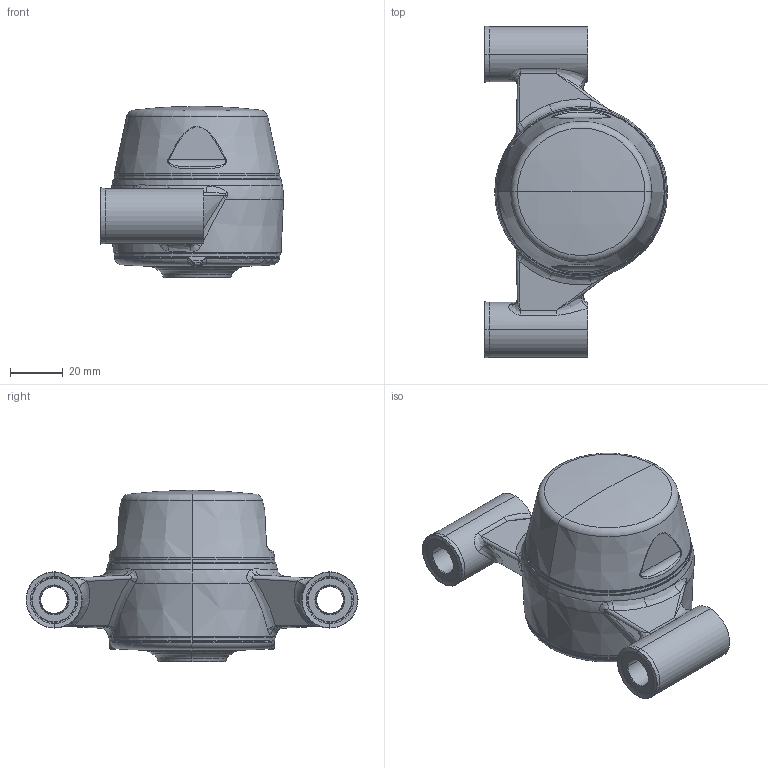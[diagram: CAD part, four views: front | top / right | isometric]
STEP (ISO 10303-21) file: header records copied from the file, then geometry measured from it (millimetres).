
FILE_DESCRIPTION (( 'STEP AP203' ), '1' );
FILE_NAME ('XBPBC52(Blue)-CSB2500(Front)-CL(Blue)-OS(Blue)_Shell.step', '2020-08-09T00:31:13', ( '' ), ( '' ), 'SwSTEP 2.0', 'SolidWorks 2019', '' );
FILE_SCHEMA (( 'CONFIG_CONTROL_DESIGN' ));
Length unit declared in the file: millimetre
Products named in the file (1): XBPBC52(Blue)-CSB2500(Front)-CL(Blue)-OS(Blue)_Shell
Bounding box: 69.69 x 126.4 x 65.25 mm (x, y, z)
Surface area: 35751.1 mm2 (no closed solid volume)
Topology: 0 solids, 20 shells, 258 faces, 758 edges, 508 vertices
Faces by surface type: bspline 78, cone 61, cylinder 46, torus 44, plane 23, sphere 6
Entity records: 14902 total; most frequent: CARTESIAN_POINT 8534, ORIENTED_EDGE 1278, DIRECTION 1275, EDGE_CURVE 758, AXIS2_PLACEMENT_3D 570, VERTEX_POINT 508, CIRCLE 389, EDGE_LOOP 277
